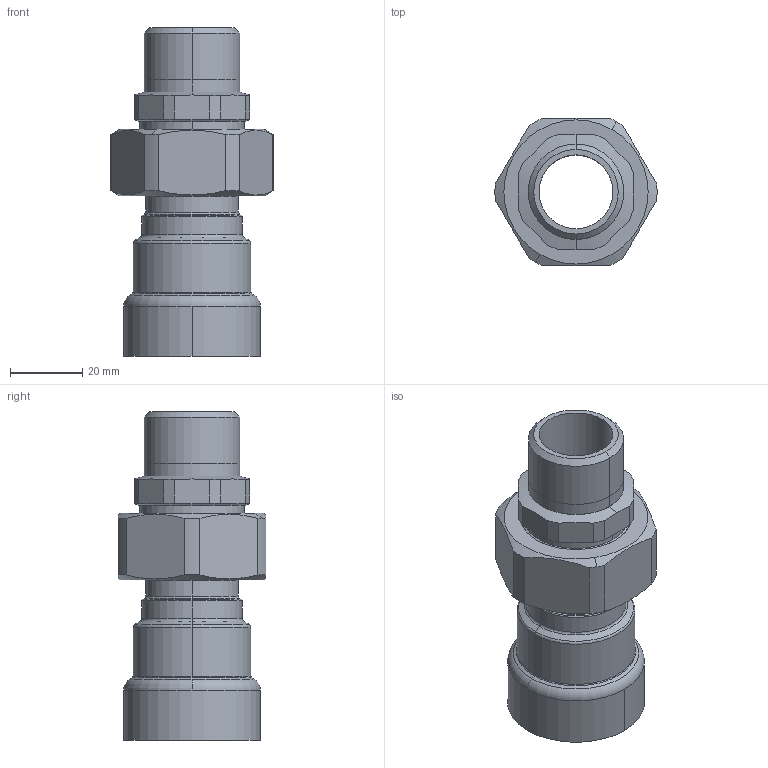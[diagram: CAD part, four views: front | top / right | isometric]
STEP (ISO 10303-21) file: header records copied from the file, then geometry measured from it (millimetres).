
FILE_DESCRIPTION(('Creo Elements/Direct Modeling STEP Export'),'2;1');
FILE_NAME('C9435_3-4.stp','2020-07-20T 9:35:04',(''),(''),'PTC Creo Elements/Direct Modeling STEP processor for AP214 (Solid Model)','PTC Creo Elements/Direct Modeling 19.0C 15-Aug-2015 (C) Parametric Technology GmbH','');
FILE_SCHEMA(('AUTOMOTIVE_DESIGN { 1 0 10303 214 1 1 1 1 }'));
Length unit declared in the file: millimetre
Products named in the file (2): C9435_3-4
Assembly tree (1 placements, depth 2):
  C9435_3-4
    C9435_3-4
Bounding box: 44.98 x 41 x 91.2 mm (x, y, z)
Volume: 44187.9 mm3; surface area: 19456.6 mm2
Topology: 1 solids, 1 shells, 87 faces, 211 edges, 129 vertices
Faces by surface type: plane 27, cylinder 26, cone 20, torus 14
Entity records: 4202 total; most frequent: CARTESIAN_POINT 2246, ORIENTED_EDGE 422, DIRECTION 350, EDGE_CURVE 211, AXIS2_PLACEMENT_3D 141, VERTEX_POINT 129, EDGE_LOOP 92, FACE_OUTER_BOUND 87
